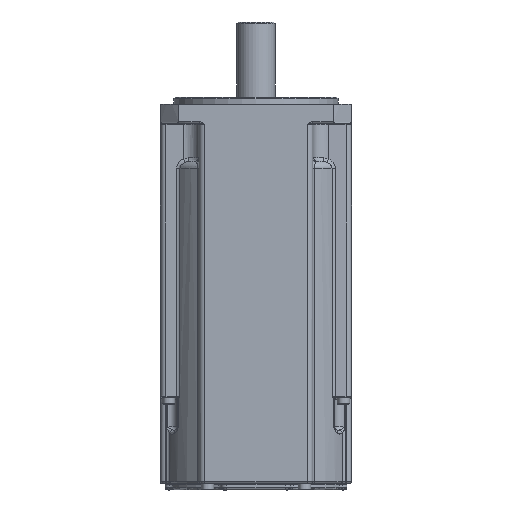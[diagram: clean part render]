
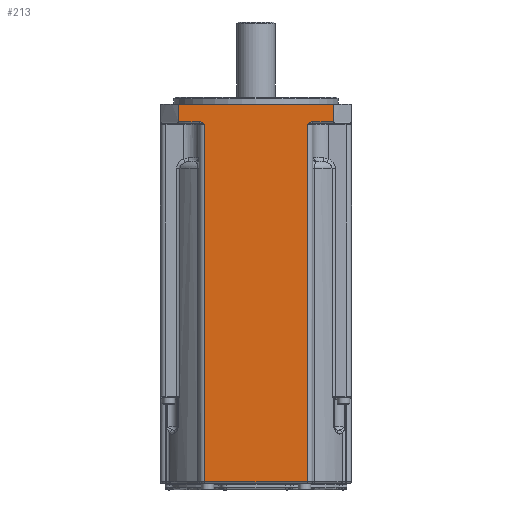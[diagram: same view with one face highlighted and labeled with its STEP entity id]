
A CAD part, front view. The second image highlights one B-rep face of the part: STEP entity #213.
In plain terms, the highlighted planar face has unit normal (0, -1, 0).
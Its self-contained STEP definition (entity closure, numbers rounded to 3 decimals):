
#18 = VERTEX_POINT ( 'NONE', #22754 ) ;
#22 = EDGE_CURVE ( 'NONE', #23, #18, #22742, .T. ) ;
#23 = VERTEX_POINT ( 'NONE', #22734 ) ;
#62 = VERTEX_POINT ( 'NONE', #22797 ) ;
#64 = EDGE_CURVE ( 'NONE', #2808, #23, #22871, .T. ) ;
#68 = EDGE_CURVE ( 'NONE', #62, #2808, #22883, .T. ) ;
#123 = ORIENTED_EDGE ( 'NONE', *, *, #68, .T. ) ;
#124 = ORIENTED_EDGE ( 'NONE', *, *, #64, .T. ) ;
#125 = ORIENTED_EDGE ( 'NONE', *, *, #22, .T. ) ;
#126 = ORIENTED_EDGE ( 'NONE', *, *, #209, .F. ) ;
#148 = ORIENTED_EDGE ( 'NONE', *, *, #149, .F. ) ;
#149 = EDGE_CURVE ( 'NONE', #150, #207, #23003, .T. ) ;
#150 = VERTEX_POINT ( 'NONE', #22999 ) ;
#151 = ORIENTED_EDGE ( 'NONE', *, *, #436, .F. ) ;
#159 = ORIENTED_EDGE ( 'NONE', *, *, #347, .T. ) ;
#160 = ORIENTED_EDGE ( 'NONE', *, *, #312, .T. ) ;
#192 = ORIENTED_EDGE ( 'NONE', *, *, #258, .T. ) ;
#193 = ORIENTED_EDGE ( 'NONE', *, *, #194, .T. ) ;
#194 = EDGE_CURVE ( 'NONE', #204, #62, #23171, .T. ) ;
#201 = VERTEX_POINT ( 'NONE', #23189 ) ;
#204 = VERTEX_POINT ( 'NONE', #23237 ) ;
#207 = VERTEX_POINT ( 'NONE', #23265 ) ;
#209 = EDGE_CURVE ( 'NONE', #207, #18, #23264, .T. ) ;
#213 = ADVANCED_FACE ( 'NONE', ( #23291 ), #23290, .T. ) ;
#214 = EDGE_LOOP ( 'NONE', ( #192, #193, #123, #124, #125, #126, #148, #151, #160, #159 ) ) ;
#258 = EDGE_CURVE ( 'NONE', #2717, #204, #7118, .T. ) ;
#307 = VERTEX_POINT ( 'NONE', #4210 ) ;
#312 = EDGE_CURVE ( 'NONE', #201, #307, #4202, .T. ) ;
#347 = EDGE_CURVE ( 'NONE', #307, #2717, #4063, .T. ) ;
#436 = EDGE_CURVE ( 'NONE', #201, #150, #4380, .T. ) ;
#2717 = VERTEX_POINT ( 'NONE', #13725 ) ;
#2808 = VERTEX_POINT ( 'NONE', #14590 ) ;
#4059 = CARTESIAN_POINT ( 'NONE',  ( -20.703, -35., -7.304 ) ) ;
#4063 = B_SPLINE_CURVE_WITH_KNOTS ( 'NONE', 3,
 ( #4059, #4089, #4088, #4087, #4086, #4085, #4084, #4083 ),
 .UNSPECIFIED., .F., .F.,
 ( 4, 2, 2, 4 ),
 ( 0., 0.001, 0.001, 0.002 ),
 .UNSPECIFIED. ) ;
#4083 = CARTESIAN_POINT ( 'NONE',  ( -18.71, -35., -8.296 ) ) ;
#4084 = CARTESIAN_POINT ( 'NONE',  ( -19.003, -35., -8.056 ) ) ;
#4085 = CARTESIAN_POINT ( 'NONE',  ( -19.301, -35., -7.815 ) ) ;
#4086 = CARTESIAN_POINT ( 'NONE',  ( -19.792, -35., -7.534 ) ) ;
#4087 = CARTESIAN_POINT ( 'NONE',  ( -19.962, -35., -7.454 ) ) ;
#4088 = CARTESIAN_POINT ( 'NONE',  ( -20.324, -35., -7.339 ) ) ;
#4089 = CARTESIAN_POINT ( 'NONE',  ( -20.512, -35., -7.304 ) ) ;
#4199 = DIRECTION ( 'NONE',  ( 1., 0., 0. ) ) ;
#4200 = VECTOR ( 'NONE', #4199, 1000. ) ;
#4201 = CARTESIAN_POINT ( 'NONE',  ( -18.71, -35., -7.304 ) ) ;
#4202 = LINE ( 'NONE', #4201, #4200 ) ;
#4210 = CARTESIAN_POINT ( 'NONE',  ( -20.703, -35., -7.304 ) ) ;
#4377 = DIRECTION ( 'NONE',  ( 0., 0., 1. ) ) ;
#4378 = VECTOR ( 'NONE', #4377, 1000. ) ;
#4379 = CARTESIAN_POINT ( 'NONE',  ( -28.284, -35., -85.72 ) ) ;
#4380 = LINE ( 'NONE', #4379, #4378 ) ;
#7090 = DIRECTION ( 'NONE',  ( 0., 0., -1. ) ) ;
#7116 = VECTOR ( 'NONE', #7090, 1000. ) ;
#7117 = CARTESIAN_POINT ( 'NONE',  ( -18.71, -35., -139.217 ) ) ;
#7118 = LINE ( 'NONE', #7117, #7116 ) ;
#13725 = CARTESIAN_POINT ( 'NONE',  ( -18.71, -35., -8.296 ) ) ;
#14590 = CARTESIAN_POINT ( 'NONE',  ( 18.71, -35., -8.296 ) ) ;
#22734 = CARTESIAN_POINT ( 'NONE',  ( 20.703, -35., -7.304 ) ) ;
#22735 = DIRECTION ( 'NONE',  ( 1., 0., 0. ) ) ;
#22736 = VECTOR ( 'NONE', #22735, 1000. ) ;
#22737 = CARTESIAN_POINT ( 'NONE',  ( 31.225, -35., -7.304 ) ) ;
#22742 = LINE ( 'NONE', #22737, #22736 ) ;
#22754 = CARTESIAN_POINT ( 'NONE',  ( 28.284, -35., -7.304 ) ) ;
#22790 = CARTESIAN_POINT ( 'NONE',  ( 19.792, -35., -7.534 ) ) ;
#22791 = CARTESIAN_POINT ( 'NONE',  ( 19.301, -35., -7.815 ) ) ;
#22792 = CARTESIAN_POINT ( 'NONE',  ( 19.003, -35., -8.056 ) ) ;
#22793 = CARTESIAN_POINT ( 'NONE',  ( 18.71, -35., -8.296 ) ) ;
#22797 = CARTESIAN_POINT ( 'NONE',  ( 18.71, -35., -138.717 ) ) ;
#22871 = B_SPLINE_CURVE_WITH_KNOTS ( 'NONE', 3,
 ( #22793, #22792, #22791, #22790, #22888, #22887, #22886, #22885 ),
 .UNSPECIFIED., .F., .F.,
 ( 4, 2, 2, 4 ),
 ( 0., 0.001, 0.002, 0.002 ),
 .UNSPECIFIED. ) ;
#22880 = DIRECTION ( 'NONE',  ( 0., 0., 1. ) ) ;
#22881 = VECTOR ( 'NONE', #22880, 1000. ) ;
#22882 = CARTESIAN_POINT ( 'NONE',  ( 18.71, -35., -7.8 ) ) ;
#22883 = LINE ( 'NONE', #22882, #22881 ) ;
#22885 = CARTESIAN_POINT ( 'NONE',  ( 20.703, -35., -7.304 ) ) ;
#22886 = CARTESIAN_POINT ( 'NONE',  ( 20.512, -35., -7.304 ) ) ;
#22887 = CARTESIAN_POINT ( 'NONE',  ( 20.324, -35., -7.339 ) ) ;
#22888 = CARTESIAN_POINT ( 'NONE',  ( 19.962, -35., -7.454 ) ) ;
#22999 = CARTESIAN_POINT ( 'NONE',  ( -28.284, -35., -0.917 ) ) ;
#23000 = DIRECTION ( 'NONE',  ( 1., 0., 0. ) ) ;
#23001 = VECTOR ( 'NONE', #23000, 1000. ) ;
#23002 = CARTESIAN_POINT ( 'NONE',  ( -35., -35., -0.917 ) ) ;
#23003 = LINE ( 'NONE', #23002, #23001 ) ;
#23171 = LINE ( 'NONE', #23176, #23212 ) ;
#23175 = DIRECTION ( 'NONE',  ( 1., 0., 0. ) ) ;
#23176 = CARTESIAN_POINT ( 'NONE',  ( -35., -35., -138.717 ) ) ;
#23189 = CARTESIAN_POINT ( 'NONE',  ( -28.284, -35., -7.304 ) ) ;
#23212 = VECTOR ( 'NONE', #23175, 1000. ) ;
#23237 = CARTESIAN_POINT ( 'NONE',  ( -18.71, -35., -138.717 ) ) ;
#23262 = DIRECTION ( 'NONE',  ( 1., 0., 0. ) ) ;
#23263 = CARTESIAN_POINT ( 'NONE',  ( 28.284, -35., -85.72 ) ) ;
#23264 = LINE ( 'NONE', #23263, #23293 ) ;
#23265 = CARTESIAN_POINT ( 'NONE',  ( 28.284, -35., -0.917 ) ) ;
#23286 = DIRECTION ( 'NONE',  ( 0., -1., 0. ) ) ;
#23287 = CARTESIAN_POINT ( 'NONE',  ( -35., -35., -7.8 ) ) ;
#23289 = AXIS2_PLACEMENT_3D ( 'NONE', #23287, #23286, #23262 ) ;
#23290 = PLANE ( 'NONE',  #23289 ) ;
#23291 = FACE_OUTER_BOUND ( 'NONE', #214, .T. ) ;
#23292 = DIRECTION ( 'NONE',  ( 0., 0., -1. ) ) ;
#23293 = VECTOR ( 'NONE', #23292, 1000. ) ;
